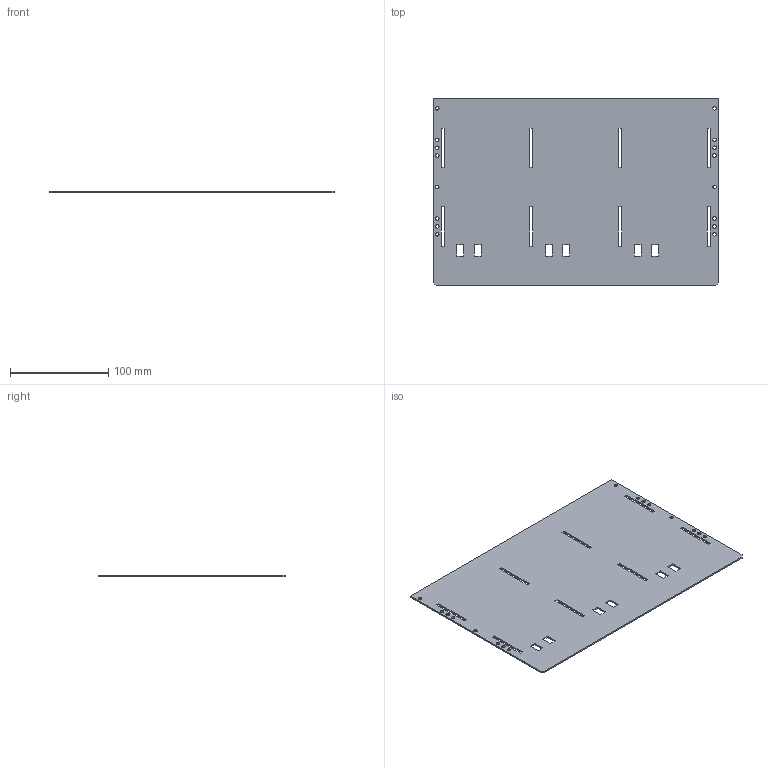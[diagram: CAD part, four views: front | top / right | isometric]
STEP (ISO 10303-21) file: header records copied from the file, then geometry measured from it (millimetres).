
FILE_DESCRIPTION(/* description */ ('STEP AP242 Edition 2','CAx-IF Rec.Pracs.---Representation and Presentation of Product Manufacturing Information (PMI)---4.0---2014-10-13','CAx-IF Rec.Pracs.---3D Tessellated Geometry---0.4---2014-09-14','2;1','CAx-IF Rec.Pracs.---User Defined Attributes---1.5---2016-08-15'),/* implementation_level */ '2;1');
FILE_NAME(/* name */ 'Enclosure - Bottom Padding',/* time_stamp */ '2026-11-16T09:17:36Z',/* author */ (''),/* organization */ (''),/* preprocessor_version */ 'ST-DEVELOPER v20',/* originating_system */ 'ONSHAPE BY PTC INC, 1.223',/* authorisation */ ' ');
FILE_SCHEMA (('AP242_MANAGED_MODEL_BASED_3D_ENGINEERING_MIM_LF { 1 0 10303 442 3 1 4 }'));
Length unit declared in the file: metre
Products named in the file (1): Bottom Padding
Bounding box: 290 x 190 x 1.5 mm (x, y, z)
Volume: 80241.1 mm3; surface area: 110051.7 mm2
Topology: 1 solids, 1 shells, 80 faces, 234 edges, 156 vertices
Faces by surface type: plane 64, cylinder 16
Full cylindrical faces by diameter (mm): 3.5 x16
Entity records: 2692 total; most frequent: CARTESIAN_POINT 455, ORIENTED_EDGE 436, DIRECTION 412, EDGE_CURVE 218, LINE 186, VECTOR 186, VERTEX_POINT 156, EDGE_LOOP 156
